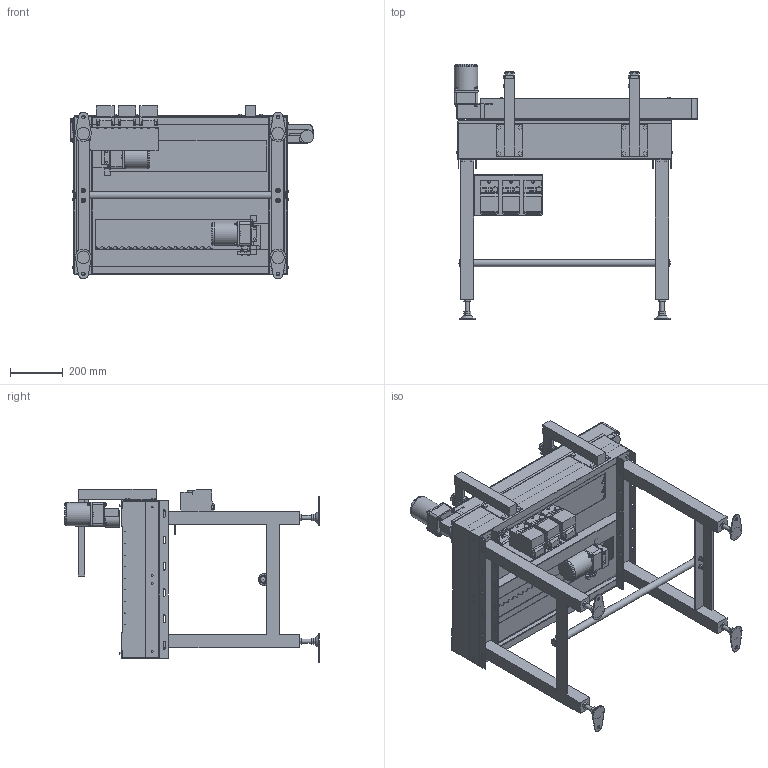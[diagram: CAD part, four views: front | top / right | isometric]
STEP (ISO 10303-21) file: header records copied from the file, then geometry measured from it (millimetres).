
FILE_DESCRIPTION( (''), '2;1');
FILE_NAME ('WEB-SGA-304x3-400-L-IVH-15-C.stp','2026-09-19T10:37:44',(''),(''),'spGate 21.9.5 (****-****-****-****)','','');
FILE_SCHEMA (('AUTOMOTIVE_DESIGN'));
Length unit declared in the file: millimetre
Products named in the file (91): WEB-SGA-304x3-400-L-IVH-15-C; TEMP_X_T-prt0; TEMP_X_T-prt1; TEMP_X_T-prt2; TEMP_X_T-prt3; TEMP_X_T-prt4; TEMP_X_T-prt5; TEMP_X_T-prt6; TEMP_X_T-prt7; TEMP_X_T-prt8; TEMP_X_T-prt9; TEMP_X_T-prt10; TEMP_X_T-prt11; TEMP_X_T-prt12; TEMP_X_T-prt13; TEMP_X_T-prt14; TEMP_X_T-prt15; TEMP_X_T-prt16; TEMP_X_T-prt17; TEMP_X_T-prt18; TEMP_X_T-prt19; TEMP_X_T-prt20; TEMP_X_T-prt21; TEMP_X_T-prt22; TEMP_X_T-prt23; TEMP_X_T-prt24; TEMP_X_T-prt25; TEMP_X_T-prt26; TEMP_X_T-prt27; TEMP_X_T-prt28; TEMP_X_T-prt29; TEMP_X_T-prt30; TEMP_X_T-prt31; TEMP_X_T-prt32; TEMP_X_T-prt33; TEMP_X_T-prt34; TEMP_X_T-prt35; TEMP_X_T-prt36; TEMP_X_T-prt37; TEMP_X_T-prt38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
Assembly tree (90 placements, depth 2):
  WEB-SGA-304x3-400-L-IVH-15-C
    TEMP_X_T-prt0
    TEMP_X_T-prt1
    TEMP_X_T-prt2
    TEMP_X_T-prt3
    TEMP_X_T-prt4
    TEMP_X_T-prt5
    TEMP_X_T-prt6
    TEMP_X_T-prt7
    TEMP_X_T-prt8
    TEMP_X_T-prt9
    TEMP_X_T-prt10
    TEMP_X_T-prt11
    TEMP_X_T-prt12
    TEMP_X_T-prt13
    TEMP_X_T-prt14
    TEMP_X_T-prt15
    TEMP_X_T-prt16
    TEMP_X_T-prt17
    TEMP_X_T-prt18
    TEMP_X_T-prt19
    TEMP_X_T-prt20
    TEMP_X_T-prt21
    TEMP_X_T-prt22
    TEMP_X_T-prt23
    TEMP_X_T-prt24
    TEMP_X_T-prt25
    TEMP_X_T-prt26
    TEMP_X_T-prt27
    TEMP_X_T-prt28
    TEMP_X_T-prt29
    TEMP_X_T-prt30
    TEMP_X_T-prt31
    TEMP_X_T-prt32
    TEMP_X_T-prt33
    TEMP_X_T-prt34
    TEMP_X_T-prt35
    TEMP_X_T-prt36
    TEMP_X_T-prt37
    TEMP_X_T-prt38
    TEMP_X_T-prt39
    TEMP_X_T-prt40
    TEMP_X_T-prt41
    TEMP_X_T-prt42
    TEMP_X_T-prt43
    TEMP_X_T-prt44
    TEMP_X_T-prt45
    TEMP_X_T-prt46
    TEMP_X_T-prt47
    TEMP_X_T-prt48
    TEMP_X_T-prt49
    TEMP_X_T-prt50
    TEMP_X_T-prt51
    TEMP_X_T-prt52
    TEMP_X_T-prt53
    TEMP_X_T-prt54
    TEMP_X_T-prt55
    TEMP_X_T-prt56
    TEMP_X_T-prt57
    TEMP_X_T-prt58
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Bounding box: 925.9 x 968.4 x 660 mm (x, y, z)
Volume: 24370869.4 mm3; surface area: 5499201.2 mm2
Topology: 90 solids, 91 shells, 2941 faces, 7609 edges, 5052 vertices
Faces by surface type: plane 2205, cylinder 514, bspline 214, sphere 8
Full cylindrical faces by diameter (mm): 2 x3, 3.3 x9, 4 x18, 5 x17, 5.5 x3, 6 x34, 6.5 x24, 6.6 x12, 7 x4, 8 x10, 8.49 x3, 9 x8, 10 x12, 10.5 x1, 11.5 x2, 12 x3, 12.2 x2, 12.5 x12, 13 x4, 16 x10, 17 x4, 20 x4, 22 x1, 27.2 x1, 28 x2, 36 x3, 40 x4, 50 x2, 83 x3, 84 x3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
Entity records: 157258 total; most frequent: CARTESIAN_POINT 22102, ORIENTED_EDGE 15174, DIRECTION 14505, COLOUR_RGB 10618, PRESENTATION_STYLE_ASSIGNMENT 10618, STYLED_ITEM 10618, EDGE_CURVE 7587, DRAUGHTING_PRE_DEFINED_CURVE_FONT 7587
